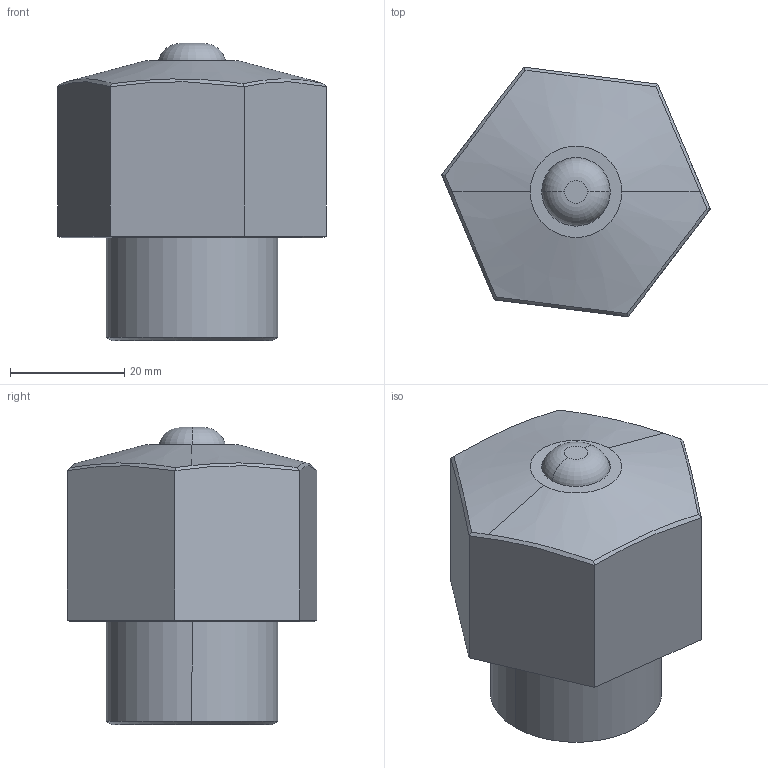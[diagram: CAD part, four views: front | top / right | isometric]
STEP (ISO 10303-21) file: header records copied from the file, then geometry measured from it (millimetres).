
FILE_DESCRIPTION (( 'STEP AP214' ), '1' );
FILE_NAME ('YO4C-M302.STEP', '2020-08-02T05:41:33', ( '' ), ( '' ), 'SwSTEP 2.0', 'SolidWorks 2019', '' );
FILE_SCHEMA (( 'AUTOMOTIVE_DESIGN' ));
Length unit declared in the file: millimetre
Products named in the file (3): YO4C-M302; TO4C-M302-PISTON; TO4C-M302-BODY
Assembly tree (2 placements, depth 2):
  YO4C-M302
    TO4C-M302-BODY
    TO4C-M302-PISTON
Bounding box: 46.97 x 43.65 x 52 mm (x, y, z)
Volume: 54084.4 mm3; surface area: 11373.2 mm2
Topology: 2 solids, 2 shells, 42 faces, 86 edges, 52 vertices
Faces by surface type: plane 20, cylinder 10, bspline 6, cone 4, torus 2
Entity records: 2159 total; most frequent: CARTESIAN_POINT 1180, DIRECTION 176, ORIENTED_EDGE 172, EDGE_CURVE 86, AXIS2_PLACEMENT_3D 69, VERTEX_POINT 52, EDGE_LOOP 46, FACE_OUTER_BOUND 42
